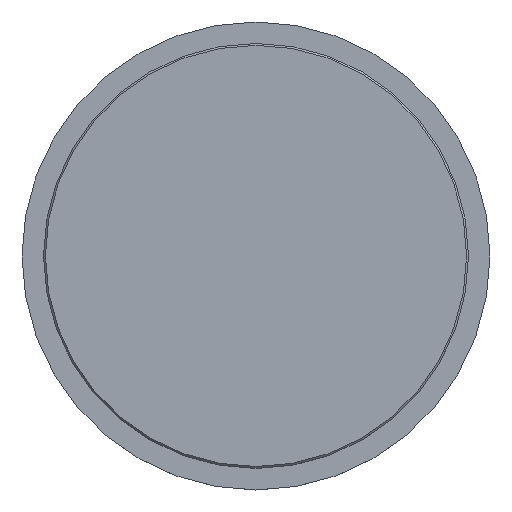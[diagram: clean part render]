
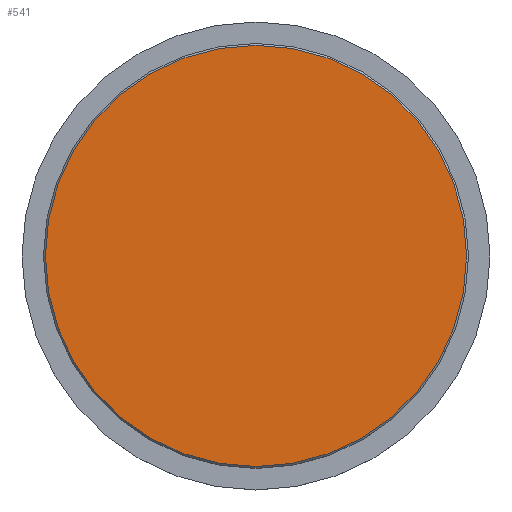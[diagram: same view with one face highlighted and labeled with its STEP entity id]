
A CAD part, top view. The second image highlights one B-rep face of the part: STEP entity #541.
In plain terms, the highlighted planar face has unit normal (0, 0, 1).
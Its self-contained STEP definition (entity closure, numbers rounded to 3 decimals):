
#541=ADVANCED_FACE('',(#598),#582,.T.);
#582=PLANE('',#1218);
#598=FACE_OUTER_BOUND('',#612,.T.);
#612=EDGE_LOOP('',(#687));
#687=ORIENTED_EDGE('',*,*,#1056,.T.);
#937=VERTEX_POINT('',#1487);
#1056=EDGE_CURVE('',#937,#937,#1181,.T.);
#1181=CIRCLE('',#1217,11.25);
#1217=AXIS2_PLACEMENT_3D('',#1486,#1295,#1296);
#1218=AXIS2_PLACEMENT_3D('',#1488,#1297,#1298);
#1295=DIRECTION('',(0.,0.,1.));
#1296=DIRECTION('',(0.,-1.,0.));
#1297=DIRECTION('',(0.,0.,1.));
#1298=DIRECTION('',(0.,-1.,0.));
#1486=CARTESIAN_POINT('',(0.,0.,0.3));
#1487=CARTESIAN_POINT('',(0.,-11.25,0.3));
#1488=CARTESIAN_POINT('',(0.,0.,0.3));
